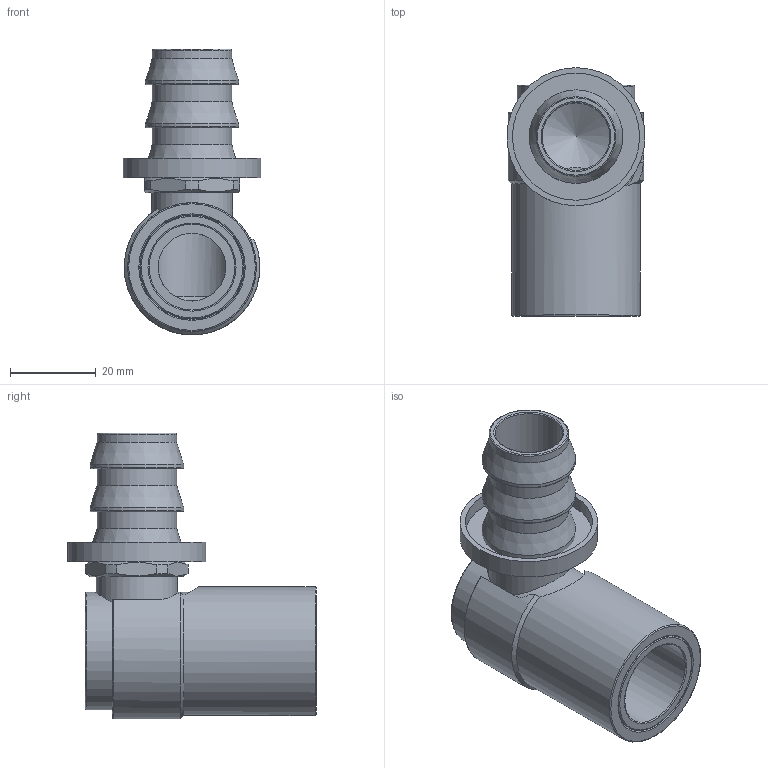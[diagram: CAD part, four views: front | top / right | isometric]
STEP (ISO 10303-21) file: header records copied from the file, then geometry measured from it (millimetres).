
FILE_DESCRIPTION(/* description */ (''),/* implementation_level */ '2;1');
FILE_NAME(/* name */ 'C:/Users/drich/Desktop/SJ-506 v1.step',/* time_stamp */ '2019-12-29T15:45:12-06:00',/* author */ (''),/* organization */ (''),/* preprocessor_version */ 'ST-DEVELOPER v18',/* originating_system */ 'Autodesk Translation Framework v8.12.0.6',/* authorisation */ '');
FILE_SCHEMA (('AUTOMOTIVE_DESIGN { 1 0 10303 214 3 1 1 }'));
Length unit declared in the file: inch
Products named in the file (6): SJ-506; 500 series body; 500 series sleeve; 500 series sleeve_1; SJ-506 BARB; FW-15
Assembly tree (5 placements, depth 3):
  SJ-506
    500 series body
    500 series sleeve
      500 series sleeve_1
    SJ-506 BARB
      FW-15
Bounding box: 32.26 x 58.05 x 66.82 mm (x, y, z)
Volume: 27430.9 mm3; surface area: 23617.6 mm2
Topology: 4 solids, 4 shells, 84 faces, 233 edges, 164 vertices
Faces by surface type: cylinder 34, plane 28, torus 13, cone 9
Full cylindrical faces by diameter (mm): 15.85 x2, 18.174 x1, 18.593 x1, 18.625 x2, 18.969 x1, 19.05 x1, 20.066 x1, 20.929 x1, 21.336 x1, 21.59 x1, 21.844 x3, 24.232 x1, 24.384 x1, 27.483 x1, 27.559 x1, 29.718 x1, 30.124 x1, 32.258 x1
Entity records: 3165 total; most frequent: CARTESIAN_POINT 750, DIRECTION 521, ORIENTED_EDGE 464, AXIS2_PLACEMENT_3D 233, EDGE_CURVE 232, VERTEX_POINT 164, CIRCLE 136, EDGE_LOOP 100
